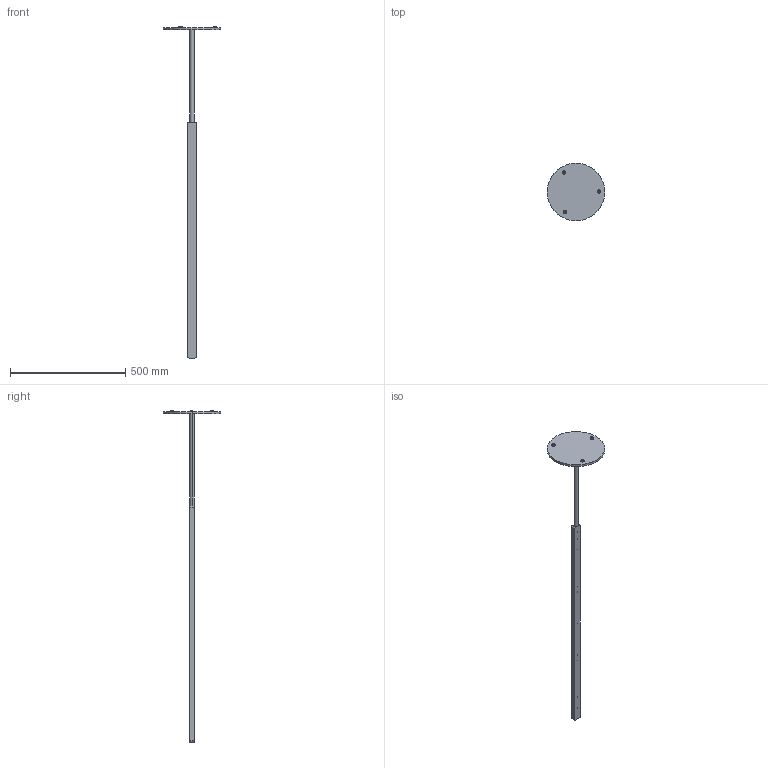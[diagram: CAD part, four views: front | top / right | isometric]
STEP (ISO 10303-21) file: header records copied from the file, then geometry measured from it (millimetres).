
FILE_DESCRIPTION((''),'2;1');
FILE_NAME('HUTAOM-Z_ASM','2026-05-30T',('叶琼'),(''),'PRO/ENGINEER BY PARAMETRIC TECHNOLOGY CORPORATION, 2012300','PRO/ENGINEER BY PARAMETRIC TECHNOLOGY CORPORATION, 2012300','');
FILE_SCHEMA(('CONFIG_CONTROL_DESIGN'));
Length unit declared in the file: millimetre
Products named in the file (7): CHAO; HUTAOM; GAI-Z; DIP; TOUJ-D; DJ; HUTAOM-Z_ASM
Assembly tree (39 placements, depth 2):
  HUTAOM-Z_ASM
    CHAO
    HUTAOM
    GAI-Z
    DIP
    TOUJ-D  x32
    DJ  x3
Bounding box: 250 x 250 x 1442 mm (x, y, z)
Volume: 1244401.7 mm3; surface area: 395101.9 mm2
Topology: 39 solids, 39 shells, 515 faces, 1170 edges, 726 vertices
Faces by surface type: cylinder 222, plane 159, cone 70, revolution 64
Entity records: 9907 total; most frequent: DIRECTION 1848, CARTESIAN_POINT 1631, ORIENTED_EDGE 1528, EDGE_CURVE 764, AXIS2_PLACEMENT_3D 729, VERTEX_POINT 489, EDGE_LOOP 431, VECTOR 388
